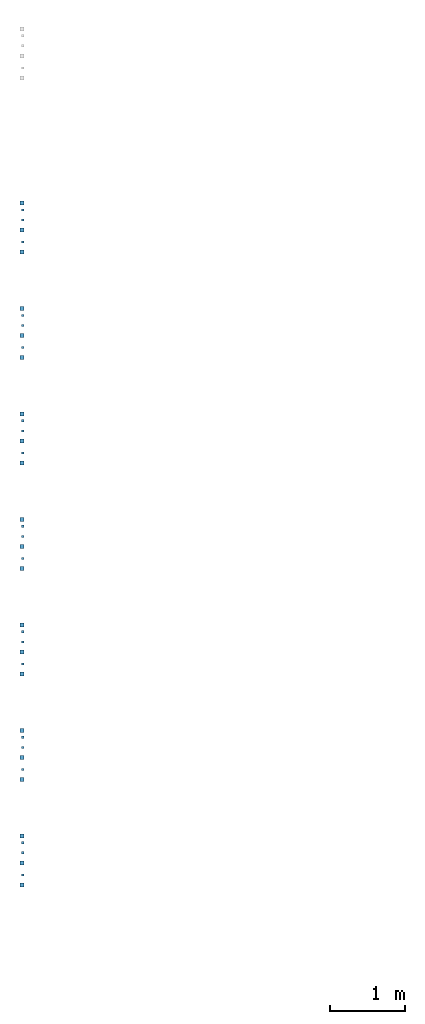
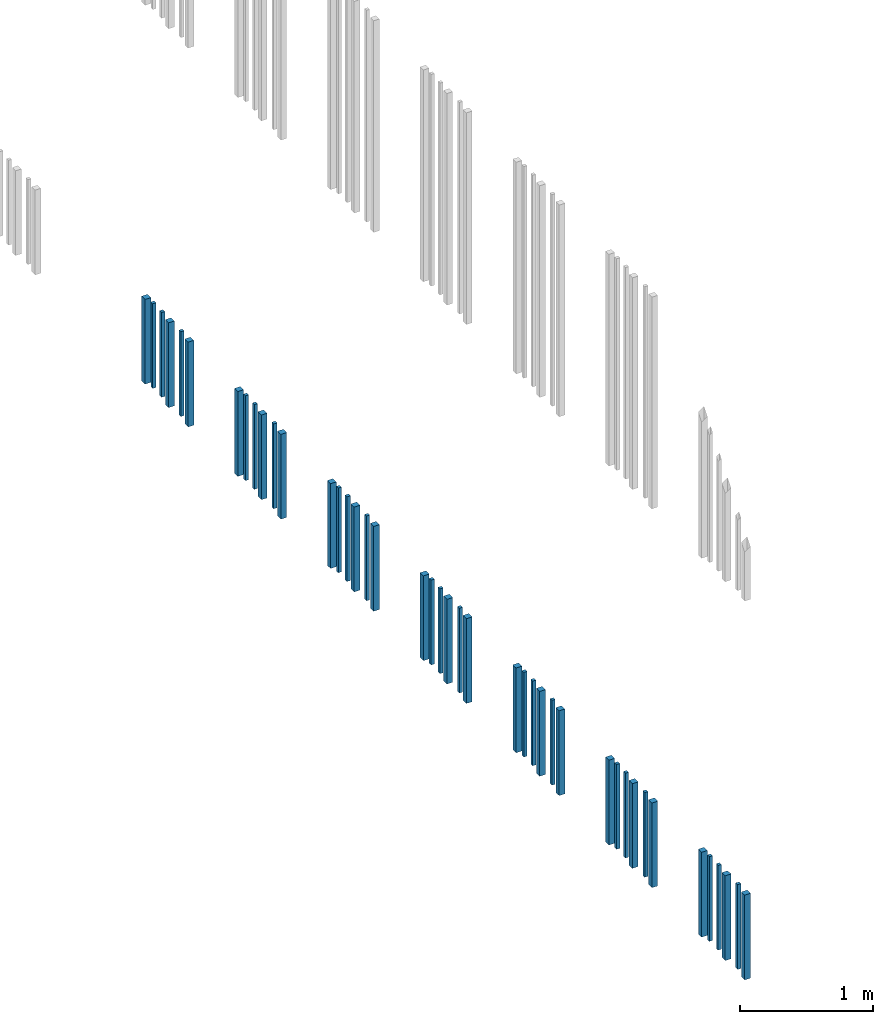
# One storey, part 82 of 124: 42 walls.
"""IFC2X3 building model written with IfcOpenShell, lengths in millimetres."""

from ifc_helpers import new_model, entity, si_unit, converted_unit, derived_unit, money_unit, direction, frame, origin_with_axes, place, context, subcontext, project, spatial, faceted_brep, material, type_object, element, save


model = new_model("IFC2X3")

# Units and contexts
model_context = context("Model", 3, precision=1e-05, world=origin_with_axes(), true_north=direction((0.0, 1.0)))
body_context = subcontext(model_context, "Body", "Model", "MODEL_VIEW")
ifc_project = project(units=[si_unit("LENGTHUNIT", "METRE", prefix="MILLI"), si_unit("AREAUNIT", "SQUARE_METRE"), si_unit("VOLUMEUNIT", "CUBIC_METRE"), converted_unit("PLANEANGLEUNIT", "DEGREE", entity("IfcPlaneAngleMeasure", 0.0174532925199), si_unit("PLANEANGLEUNIT", "RADIAN"), dimensions=[0, 0, 0, 0, 0, 0, 0]), si_unit("SOLIDANGLEUNIT", "STERADIAN"), money_unit("EUR"), converted_unit("TIMEUNIT", "Year", entity("IfcTimeMeasure", 31556926.0), si_unit("TIMEUNIT", "SECOND"), dimensions=[0, 0, 1, 0, 0, 0, 0]), si_unit("MASSUNIT", "GRAM", prefix="KILO"), si_unit("THERMODYNAMICTEMPERATUREUNIT", "DEGREE_CELSIUS"), si_unit("LUMINOUSINTENSITYUNIT", "LUMEN"), si_unit("ENERGYUNIT", "JOULE", prefix="MEGA"), derived_unit("THERMALCONDUCTANCEUNIT", [(si_unit("POWERUNIT", "WATT"), 1), (si_unit("LENGTHUNIT", "METRE"), -1), (si_unit("THERMODYNAMICTEMPERATUREUNIT", "KELVIN"), -1)]), derived_unit("SPECIFICHEATCAPACITYUNIT", [(si_unit("ENERGYUNIT", "JOULE"), 1), (si_unit("MASSUNIT", "GRAM", prefix="KILO"), -1), (si_unit("THERMODYNAMICTEMPERATUREUNIT", "KELVIN"), -1)]), derived_unit("MASSDENSITYUNIT", [(si_unit("MASSUNIT", "GRAM", prefix="KILO"), 1), (si_unit("VOLUMEUNIT", "CUBIC_METRE"), -1)])], contexts=[model_context])

# Site, building, storey
site_placement = place(None, origin_with_axes())
site = spatial("IfcSite", under=ifc_project, at=site_placement, Name="Site", CompositionType="ELEMENT")
building_placement = place(site_placement, origin_with_axes())
building = spatial("IfcBuilding", under=site, at=building_placement, Name="Building", CompositionType="ELEMENT")
storey_placement = place(building_placement, frame((0.0, 0.0, -1615.0), z_axis=(0.0, 0.0, 1.0), x_axis=(1.0, 0.0, 0.0)))
storey = spatial("IfcBuildingStorey", under=building, at=storey_placement, Name="0  korrus", CompositionType="ELEMENT", Elevation=-1615.0)

# Walls
ifc_material = material(Name="Site specified")
wall_type = type_object("IfcWallType", Name="Puitfassaadi ribistik", PredefinedType="NOTDEFINED")
for number, where, z_axis, x_axis, name in (
    (1, (122387.999966, 55655.0238456, 6039.99966101), (0.0, 0.0, 1.0), (-5.16795809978e-08, 1.0, 0.0), "Site specified"),
    (2, (122387.999984, 55299.0182123, 6039.99966101), (0.0, 0.0, 1.0), (-5.16795809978e-08, 1.0, 0.0), "Site specified"),
):
    element("IfcWall", number, at=place(storey_placement, frame(where, z_axis=z_axis, x_axis=x_axis)), inside=storey, type_object=wall_type, material=ifc_material, Name=name, context=body_context, shape_type="Brep", body=[
        faceted_brep([(25.0, 25.0, 781.000338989), (25.0, 25.0, 0.0), (-25.0, 25.0, 0.0), (-25.0, 25.0, 781.000338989), (25.0, -25.0, 781.000338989), (25.0, -25.0, 0.0), (-25.0, -25.0, 0.0), (-25.0, -25.0, 781.000338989)], [[[0, 1, 2, 3]], [[4, 5, 1, 0]], [[2, 1, 5, 6]], [[3, 2, 6, 7]], [[4, 0, 3, 7]], [[7, 6, 5, 4]]]),
    ])
wall_1_placement = place(storey_placement, frame((122398.999977, 55433.0206766, 6039.99966101), z_axis=(0.0, 0.0, 1.0), x_axis=(-5.16795809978e-08, 1.0, 0.0)))
element("IfcWall", 3, at=wall_1_placement, inside=storey, type_object=wall_type, material=ifc_material, Name="Site specified", context=body_context, shape_type="Brep", body=[
    faceted_brep([(14.0, 14.0, 781.000338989), (14.0, 14.0, 0.0), (-14.0, 14.0, 0.0), (-14.0, 14.0, 781.000338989), (14.0, -14.0, 781.000338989), (14.0, -14.0, 0.0), (-14.0, -14.0, 0.0), (-14.0, -14.0, 781.000338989)], [[[0, 1, 2, 3]], [[4, 5, 1, 0]], [[2, 1, 5, 6]], [[3, 2, 6, 7]], [[4, 0, 3, 7]], [[7, 6, 5, 4]]]),
])
wall_2_placement = place(storey_placement, frame((122387.999999, 55005.0182144, 6039.99966101), z_axis=(0.0, 0.0, 1.0), x_axis=(-5.16795809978e-08, 1.0, 0.0)))
element("IfcWall", 4, at=wall_2_placement, inside=storey, type_object=wall_type, material=ifc_material, Name="Site specified", context=body_context, shape_type="Brep", body=[
    faceted_brep([(25.0, 25.0, 781.000338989), (25.0, 25.0, 0.0), (-25.0, 25.0, 0.0), (-25.0, 25.0, 781.000338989), (25.0, -25.0, 781.000338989), (25.0, -25.0, 0.0), (-25.0, -25.0, 0.0), (-25.0, -25.0, 781.000338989)], [[[0, 1, 2, 3]], [[4, 5, 1, 0]], [[2, 1, 5, 6]], [[3, 2, 6, 7]], [[4, 0, 3, 7]], [[7, 6, 5, 4]]]),
])
for number, where, z_axis, x_axis, name in (
    (5, (122398.999992, 55140.0207055, 6039.99966101), (0.0, 0.0, 1.0), (-5.16795809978e-08, 1.0, 0.0), "Site specified"),
    (6, (122398.99997, 55566.0206757, 6039.99966101), (0.0, 0.0, 1.0), (-5.16795809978e-08, 1.0, 0.0), "Site specified"),
    (7, (122398.999993, 53740.0207053, 6039.99966101), (0.0, 0.0, 1.0), (-5.16795809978e-08, 1.0, 0.0), "Site specified"),
):
    element("IfcWall", number, at=place(storey_placement, frame(where, z_axis=z_axis, x_axis=x_axis)), inside=storey, type_object=wall_type, material=ifc_material, Name=name, context=body_context, shape_type="Brep", body=[
        faceted_brep([(14.0, 14.0, 781.000338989), (14.0, 14.0, 0.0), (-14.0, 14.0, 0.0), (-14.0, 14.0, 781.000338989), (14.0, -14.0, 781.000338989), (14.0, -14.0, 0.0), (-14.0, -14.0, 0.0), (-14.0, -14.0, 781.000338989)], [[[0, 1, 2, 3]], [[4, 5, 1, 0]], [[2, 1, 5, 6]], [[3, 2, 6, 7]], [[4, 0, 3, 7]], [[7, 6, 5, 4]]]),
    ])
wall_3_placement = place(storey_placement, frame((122388.0, 53605.0182143, 6039.99966101), z_axis=(0.0, 0.0, 1.0), x_axis=(-5.16795809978e-08, 1.0, 0.0)))
element("IfcWall", 8, at=wall_3_placement, inside=storey, type_object=wall_type, material=ifc_material, Name="Site specified", context=body_context, shape_type="Brep", body=[
    faceted_brep([(25.0, 25.0, 781.000338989), (25.0, 25.0, 0.0), (-25.0, 25.0, 0.0), (-25.0, 25.0, 781.000338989), (25.0, -25.0, 781.000338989), (25.0, -25.0, 0.0), (-25.0, -25.0, 0.0), (-25.0, -25.0, 781.000338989)], [[[0, 1, 2, 3]], [[4, 5, 1, 0]], [[2, 1, 5, 6]], [[3, 2, 6, 7]], [[4, 0, 3, 7]], [[7, 6, 5, 4]]]),
])
for number, where, z_axis, x_axis, name in (
    (9, (122398.999971, 54166.0206755, 6039.99966101), (0.0, 0.0, 1.0), (-5.16795809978e-08, 1.0, 0.0), "Site specified"),
    (10, (122398.999977, 54033.0206764, 6039.99966101), (0.0, 0.0, 1.0), (-5.16795809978e-08, 1.0, 0.0), "Site specified"),
):
    element("IfcWall", number, at=place(storey_placement, frame(where, z_axis=z_axis, x_axis=x_axis)), inside=storey, type_object=wall_type, material=ifc_material, Name=name, context=body_context, shape_type="Brep", body=[
        faceted_brep([(14.0, 14.0, 781.000338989), (14.0, 14.0, 0.0), (-14.0, 14.0, 0.0), (-14.0, 14.0, 781.000338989), (14.0, -14.0, 781.000338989), (14.0, -14.0, 0.0), (-14.0, -14.0, 0.0), (-14.0, -14.0, 781.000338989)], [[[0, 1, 2, 3]], [[4, 5, 1, 0]], [[2, 1, 5, 6]], [[3, 2, 6, 7]], [[4, 0, 3, 7]], [[7, 6, 5, 4]]]),
    ])
for number, where, z_axis, x_axis, name in (
    (11, (122387.999966, 54255.0238454, 6039.99966101), (0.0, 0.0, 1.0), (-5.16795809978e-08, 1.0, 0.0), "Site specified"),
    (12, (122387.999984, 53899.0182121, 6039.99966101), (0.0, 0.0, 1.0), (-5.16795809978e-08, 1.0, 0.0), "Site specified"),
):
    element("IfcWall", number, at=place(storey_placement, frame(where, z_axis=z_axis, x_axis=x_axis)), inside=storey, type_object=wall_type, material=ifc_material, Name=name, context=body_context, shape_type="Brep", body=[
        faceted_brep([(25.0, 25.0, 781.000338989), (25.0, 25.0, 0.0), (-25.0, 25.0, 0.0), (-25.0, 25.0, 781.000338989), (25.0, -25.0, 781.000338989), (25.0, -25.0, 0.0), (-25.0, -25.0, 0.0), (-25.0, -25.0, 781.000338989)], [[[0, 1, 2, 3]], [[4, 5, 1, 0]], [[2, 1, 5, 6]], [[3, 2, 6, 7]], [[4, 0, 3, 7]], [[7, 6, 5, 4]]]),
    ])
wall_4_placement = place(storey_placement, frame((122398.999978, 52633.0206764, 6039.99966101), z_axis=(0.0, 0.0, 1.0), x_axis=(-5.16795809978e-08, 1.0, 0.0)))
element("IfcWall", 13, at=wall_4_placement, inside=storey, type_object=wall_type, material=ifc_material, Name="Site specified", context=body_context, shape_type="Brep", body=[
    faceted_brep([(14.0, 14.0, 781.000338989), (14.0, 14.0, 0.0), (-14.0, 14.0, 0.0), (-14.0, 14.0, 781.000338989), (14.0, -14.0, 781.000338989), (14.0, -14.0, 0.0), (-14.0, -14.0, 0.0), (-14.0, -14.0, 781.000338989)], [[[0, 1, 2, 3]], [[4, 5, 1, 0]], [[2, 1, 5, 6]], [[3, 2, 6, 7]], [[4, 0, 3, 7]], [[7, 6, 5, 4]]]),
])
for number, where, z_axis, x_axis, name in (
    (14, (122387.999966, 52855.0238454, 6039.99966101), (0.0, 0.0, 1.0), (-5.16795809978e-08, 1.0, 0.0), "Site specified"),
    (15, (122388.0, 52205.0182143, 6039.99966101), (0.0, 0.0, 1.0), (-5.16795809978e-08, 1.0, 0.0), "Site specified"),
):
    element("IfcWall", number, at=place(storey_placement, frame(where, z_axis=z_axis, x_axis=x_axis)), inside=storey, type_object=wall_type, material=ifc_material, Name=name, context=body_context, shape_type="Brep", body=[
        faceted_brep([(25.0, 25.0, 781.000338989), (25.0, 25.0, 0.0), (-25.0, 25.0, 0.0), (-25.0, 25.0, 781.000338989), (25.0, -25.0, 781.000338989), (25.0, -25.0, 0.0), (-25.0, -25.0, 0.0), (-25.0, -25.0, 781.000338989)], [[[0, 1, 2, 3]], [[4, 5, 1, 0]], [[2, 1, 5, 6]], [[3, 2, 6, 7]], [[4, 0, 3, 7]], [[7, 6, 5, 4]]]),
    ])
for number, where, z_axis, x_axis, name in (
    (16, (122398.999993, 52340.0207053, 6039.99966101), (0.0, 0.0, 1.0), (-5.16795809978e-08, 1.0, 0.0), "Site specified"),
    (17, (122398.999971, 52766.0206755, 6039.99966101), (0.0, 0.0, 1.0), (-5.16795809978e-08, 1.0, 0.0), "Site specified"),
):
    element("IfcWall", number, at=place(storey_placement, frame(where, z_axis=z_axis, x_axis=x_axis)), inside=storey, type_object=wall_type, material=ifc_material, Name=name, context=body_context, shape_type="Brep", body=[
        faceted_brep([(14.0, 14.0, 781.000338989), (14.0, 14.0, 0.0), (-14.0, 14.0, 0.0), (-14.0, 14.0, 781.000338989), (14.0, -14.0, 781.000338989), (14.0, -14.0, 0.0), (-14.0, -14.0, 0.0), (-14.0, -14.0, 781.000338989)], [[[0, 1, 2, 3]], [[4, 5, 1, 0]], [[2, 1, 5, 6]], [[3, 2, 6, 7]], [[4, 0, 3, 7]], [[7, 6, 5, 4]]]),
    ])
for number, where, z_axis, x_axis, name in (
    (18, (122387.999985, 52499.0182121, 6039.99966101), (0.0, 0.0, 1.0), (-5.16795809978e-08, 1.0, 0.0), "Site specified"),
    (19, (122388.0, 48005.0182143, 6039.99966101), (0.0, 0.0, 1.0), (-5.16795809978e-08, 1.0, 0.0), "Site specified"),
    (20, (122387.999967, 48655.0238454, 6039.99966101), (0.0, 0.0, 1.0), (-5.16795809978e-08, 1.0, 0.0), "Site specified"),
):
    element("IfcWall", number, at=place(storey_placement, frame(where, z_axis=z_axis, x_axis=x_axis)), inside=storey, type_object=wall_type, material=ifc_material, Name=name, context=body_context, shape_type="Brep", body=[
        faceted_brep([(25.0, 25.0, 781.000338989), (25.0, 25.0, 0.0), (-25.0, 25.0, 0.0), (-25.0, 25.0, 781.000338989), (25.0, -25.0, 781.000338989), (25.0, -25.0, 0.0), (-25.0, -25.0, 0.0), (-25.0, -25.0, 781.000338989)], [[[0, 1, 2, 3]], [[4, 5, 1, 0]], [[2, 1, 5, 6]], [[3, 2, 6, 7]], [[4, 0, 3, 7]], [[7, 6, 5, 4]]]),
    ])
for number, where, z_axis, x_axis, name in (
    (21, (122398.999993, 48140.0207053, 6039.99966101), (0.0, 0.0, 1.0), (-5.16795809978e-08, 1.0, 0.0), "Site specified"),
    (22, (122398.999971, 48566.0206755, 6039.99966101), (0.0, 0.0, 1.0), (-5.16795809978e-08, 1.0, 0.0), "Site specified"),
    (23, (122398.999978, 48433.0206764, 6039.99966101), (0.0, 0.0, 1.0), (-5.16795809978e-08, 1.0, 0.0), "Site specified"),
    (24, (122398.999978, 47033.0206764, 6039.99966101), (0.0, 0.0, 1.0), (-5.16795809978e-08, 1.0, 0.0), "Site specified"),
):
    element("IfcWall", number, at=place(storey_placement, frame(where, z_axis=z_axis, x_axis=x_axis)), inside=storey, type_object=wall_type, material=ifc_material, Name=name, context=body_context, shape_type="Brep", body=[
        faceted_brep([(14.0, 14.0, 781.000338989), (14.0, 14.0, 0.0), (-14.0, 14.0, 0.0), (-14.0, 14.0, 781.000338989), (14.0, -14.0, 781.000338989), (14.0, -14.0, 0.0), (-14.0, -14.0, 0.0), (-14.0, -14.0, 781.000338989)], [[[0, 1, 2, 3]], [[4, 5, 1, 0]], [[2, 1, 5, 6]], [[3, 2, 6, 7]], [[4, 0, 3, 7]], [[7, 6, 5, 4]]]),
    ])
for number, where, z_axis, x_axis, name in (
    (25, (122387.999967, 47255.0238454, 6039.99966101), (0.0, 0.0, 1.0), (-5.16795809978e-08, 1.0, 0.0), "Site specified"),
    (26, (122387.999985, 46899.0182121, 6039.99966101), (0.0, 0.0, 1.0), (-5.16795809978e-08, 1.0, 0.0), "Site specified"),
    (27, (122387.999985, 48299.0182121, 6039.99966101), (0.0, 0.0, 1.0), (-5.16795809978e-08, 1.0, 0.0), "Site specified"),
):
    element("IfcWall", number, at=place(storey_placement, frame(where, z_axis=z_axis, x_axis=x_axis)), inside=storey, type_object=wall_type, material=ifc_material, Name=name, context=body_context, shape_type="Brep", body=[
        faceted_brep([(25.0, 25.0, 781.000338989), (25.0, 25.0, 0.0), (-25.0, 25.0, 0.0), (-25.0, 25.0, 781.000338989), (25.0, -25.0, 781.000338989), (25.0, -25.0, 0.0), (-25.0, -25.0, 0.0), (-25.0, -25.0, 781.000338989)], [[[0, 1, 2, 3]], [[4, 5, 1, 0]], [[2, 1, 5, 6]], [[3, 2, 6, 7]], [[4, 0, 3, 7]], [[7, 6, 5, 4]]]),
    ])
wall_5_placement = place(storey_placement, frame((122398.999971, 47166.0206755, 6039.99966101), z_axis=(0.0, 0.0, 1.0), x_axis=(-5.16795809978e-08, 1.0, 0.0)))
element("IfcWall", 28, at=wall_5_placement, inside=storey, type_object=wall_type, material=ifc_material, Name="Site specified", context=body_context, shape_type="Brep", body=[
    faceted_brep([(14.0, 14.0, 781.000338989), (14.0, 14.0, 0.0), (-14.0, 14.0, 0.0), (-14.0, 14.0, 781.000338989), (14.0, -14.0, 781.000338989), (14.0, -14.0, 0.0), (-14.0, -14.0, 0.0), (-14.0, -14.0, 781.000338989)], [[[0, 1, 2, 3]], [[4, 5, 1, 0]], [[2, 1, 5, 6]], [[3, 2, 6, 7]], [[4, 0, 3, 7]], [[7, 6, 5, 4]]]),
])
wall_6_placement = place(storey_placement, frame((122388.0, 46605.0182143, 6039.99966101), z_axis=(0.0, 0.0, 1.0), x_axis=(-5.16795809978e-08, 1.0, 0.0)))
element("IfcWall", 29, at=wall_6_placement, inside=storey, type_object=wall_type, material=ifc_material, Name="Site specified", context=body_context, shape_type="Brep", body=[
    faceted_brep([(25.0, 25.0, 781.000338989), (25.0, 25.0, 0.0), (-25.0, 25.0, 0.0), (-25.0, 25.0, 781.000338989), (25.0, -25.0, 781.000338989), (25.0, -25.0, 0.0), (-25.0, -25.0, 0.0), (-25.0, -25.0, 781.000338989)], [[[0, 1, 2, 3]], [[4, 5, 1, 0]], [[2, 1, 5, 6]], [[3, 2, 6, 7]], [[4, 0, 3, 7]], [[7, 6, 5, 4]]]),
])
for number, where, z_axis, x_axis, name in (
    (30, (122398.999993, 46740.0207053, 6039.99966101), (0.0, 0.0, 1.0), (-5.16795809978e-08, 1.0, 0.0), "Site specified"),
    (31, (122398.999993, 49540.0207053, 6039.99966101), (0.0, 0.0, 1.0), (-5.16795809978e-08, 1.0, 0.0), "Site specified"),
    (32, (122398.999971, 49966.0206755, 6039.99966101), (0.0, 0.0, 1.0), (-5.16795809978e-08, 1.0, 0.0), "Site specified"),
    (33, (122398.999978, 49833.0206764, 6039.99966101), (0.0, 0.0, 1.0), (-5.16795809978e-08, 1.0, 0.0), "Site specified"),
):
    element("IfcWall", number, at=place(storey_placement, frame(where, z_axis=z_axis, x_axis=x_axis)), inside=storey, type_object=wall_type, material=ifc_material, Name=name, context=body_context, shape_type="Brep", body=[
        faceted_brep([(14.0, 14.0, 781.000338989), (14.0, 14.0, 0.0), (-14.0, 14.0, 0.0), (-14.0, 14.0, 781.000338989), (14.0, -14.0, 781.000338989), (14.0, -14.0, 0.0), (-14.0, -14.0, 0.0), (-14.0, -14.0, 781.000338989)], [[[0, 1, 2, 3]], [[4, 5, 1, 0]], [[2, 1, 5, 6]], [[3, 2, 6, 7]], [[4, 0, 3, 7]], [[7, 6, 5, 4]]]),
    ])
for number, where, z_axis, x_axis, name in (
    (34, (122387.999966, 50055.0238454, 6039.99966101), (0.0, 0.0, 1.0), (-5.16795809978e-08, 1.0, 0.0), "Site specified"),
    (35, (122387.999985, 49699.0182121, 6039.99966101), (0.0, 0.0, 1.0), (-5.16795809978e-08, 1.0, 0.0), "Site specified"),
):
    element("IfcWall", number, at=place(storey_placement, frame(where, z_axis=z_axis, x_axis=x_axis)), inside=storey, type_object=wall_type, material=ifc_material, Name=name, context=body_context, shape_type="Brep", body=[
        faceted_brep([(25.0, 25.0, 781.000338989), (25.0, 25.0, 0.0), (-25.0, 25.0, 0.0), (-25.0, 25.0, 781.000338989), (25.0, -25.0, 781.000338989), (25.0, -25.0, 0.0), (-25.0, -25.0, 0.0), (-25.0, -25.0, 781.000338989)], [[[0, 1, 2, 3]], [[4, 5, 1, 0]], [[2, 1, 5, 6]], [[3, 2, 6, 7]], [[4, 0, 3, 7]], [[7, 6, 5, 4]]]),
    ])
wall_7_placement = place(storey_placement, frame((122398.999971, 51366.0206755, 6039.99966101), z_axis=(0.0, 0.0, 1.0), x_axis=(-5.16795809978e-08, 1.0, 0.0)))
element("IfcWall", 36, at=wall_7_placement, inside=storey, type_object=wall_type, material=ifc_material, Name="Site specified", context=body_context, shape_type="Brep", body=[
    faceted_brep([(14.0, 14.0, 781.000338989), (14.0, 14.0, 0.0), (-14.0, 14.0, 0.0), (-14.0, 14.0, 781.000338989), (14.0, -14.0, 781.000338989), (14.0, -14.0, 0.0), (-14.0, -14.0, 0.0), (-14.0, -14.0, 781.000338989)], [[[0, 1, 2, 3]], [[4, 5, 1, 0]], [[2, 1, 5, 6]], [[3, 2, 6, 7]], [[4, 0, 3, 7]], [[7, 6, 5, 4]]]),
])
wall_8_placement = place(storey_placement, frame((122388.0, 50805.0182143, 6039.99966101), z_axis=(0.0, 0.0, 1.0), x_axis=(-5.16795809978e-08, 1.0, 0.0)))
element("IfcWall", 37, at=wall_8_placement, inside=storey, type_object=wall_type, material=ifc_material, Name="Site specified", context=body_context, shape_type="Brep", body=[
    faceted_brep([(25.0, 25.0, 781.000338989), (25.0, 25.0, 0.0), (-25.0, 25.0, 0.0), (-25.0, 25.0, 781.000338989), (25.0, -25.0, 781.000338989), (25.0, -25.0, 0.0), (-25.0, -25.0, 0.0), (-25.0, -25.0, 781.000338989)], [[[0, 1, 2, 3]], [[4, 5, 1, 0]], [[2, 1, 5, 6]], [[3, 2, 6, 7]], [[4, 0, 3, 7]], [[7, 6, 5, 4]]]),
])
wall_9_placement = place(storey_placement, frame((122398.999993, 50940.0207053, 6039.99966101), z_axis=(0.0, 0.0, 1.0), x_axis=(-5.16795809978e-08, 1.0, 0.0)))
element("IfcWall", 38, at=wall_9_placement, inside=storey, type_object=wall_type, material=ifc_material, Name="Site specified", context=body_context, shape_type="Brep", body=[
    faceted_brep([(14.0, 14.0, 781.000338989), (14.0, 14.0, 0.0), (-14.0, 14.0, 0.0), (-14.0, 14.0, 781.000338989), (14.0, -14.0, 781.000338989), (14.0, -14.0, 0.0), (-14.0, -14.0, 0.0), (-14.0, -14.0, 781.000338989)], [[[0, 1, 2, 3]], [[4, 5, 1, 0]], [[2, 1, 5, 6]], [[3, 2, 6, 7]], [[4, 0, 3, 7]], [[7, 6, 5, 4]]]),
])
wall_10_placement = place(storey_placement, frame((122388.0, 49405.0182143, 6039.99966101), z_axis=(0.0, 0.0, 1.0), x_axis=(-5.16795809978e-08, 1.0, 0.0)))
element("IfcWall", 39, at=wall_10_placement, inside=storey, type_object=wall_type, material=ifc_material, Name="Site specified", context=body_context, shape_type="Brep", body=[
    faceted_brep([(25.0, 25.0, 781.000338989), (25.0, 25.0, 0.0), (-25.0, 25.0, 0.0), (-25.0, 25.0, 781.000338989), (25.0, -25.0, 781.000338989), (25.0, -25.0, 0.0), (-25.0, -25.0, 0.0), (-25.0, -25.0, 781.000338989)], [[[0, 1, 2, 3]], [[4, 5, 1, 0]], [[2, 1, 5, 6]], [[3, 2, 6, 7]], [[4, 0, 3, 7]], [[7, 6, 5, 4]]]),
])
wall_11_placement = place(storey_placement, frame((122398.999978, 51233.0206764, 6039.99966101), z_axis=(0.0, 0.0, 1.0), x_axis=(-5.16795809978e-08, 1.0, 0.0)))
element("IfcWall", 40, at=wall_11_placement, inside=storey, type_object=wall_type, material=ifc_material, Name="Site specified", context=body_context, shape_type="Brep", body=[
    faceted_brep([(14.0, 14.0, 781.000338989), (14.0, 14.0, 0.0), (-14.0, 14.0, 0.0), (-14.0, 14.0, 781.000338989), (14.0, -14.0, 781.000338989), (14.0, -14.0, 0.0), (-14.0, -14.0, 0.0), (-14.0, -14.0, 781.000338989)], [[[0, 1, 2, 3]], [[4, 5, 1, 0]], [[2, 1, 5, 6]], [[3, 2, 6, 7]], [[4, 0, 3, 7]], [[7, 6, 5, 4]]]),
])
for number, where, z_axis, x_axis, name in (
    (41, (122387.999966, 51455.0238454, 6039.99966101), (0.0, 0.0, 1.0), (-5.16795809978e-08, 1.0, 0.0), "Site specified"),
    (42, (122387.999985, 51099.0182121, 6039.99966101), (0.0, 0.0, 1.0), (-5.16795809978e-08, 1.0, 0.0), "Site specified"),
):
    element("IfcWall", number, at=place(storey_placement, frame(where, z_axis=z_axis, x_axis=x_axis)), inside=storey, type_object=wall_type, material=ifc_material, Name=name, context=body_context, shape_type="Brep", body=[
        faceted_brep([(25.0, 25.0, 781.000338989), (25.0, 25.0, 0.0), (-25.0, 25.0, 0.0), (-25.0, 25.0, 781.000338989), (25.0, -25.0, 781.000338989), (25.0, -25.0, 0.0), (-25.0, -25.0, 0.0), (-25.0, -25.0, 781.000338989)], [[[0, 1, 2, 3]], [[4, 5, 1, 0]], [[2, 1, 5, 6]], [[3, 2, 6, 7]], [[4, 0, 3, 7]], [[7, 6, 5, 4]]]),
    ])

save(model, "model.ifc")
